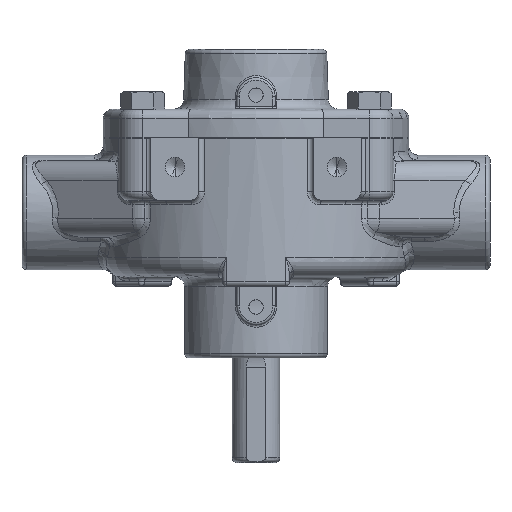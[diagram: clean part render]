
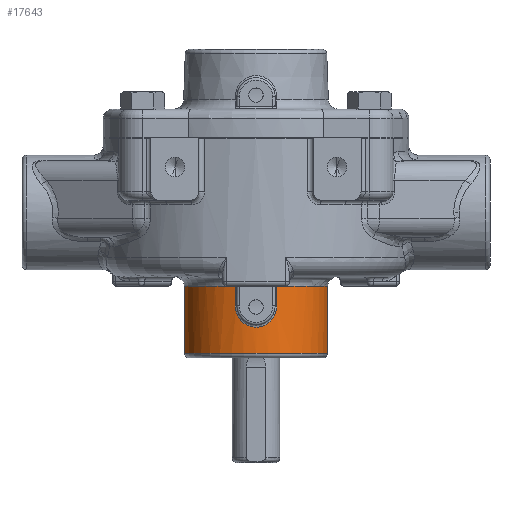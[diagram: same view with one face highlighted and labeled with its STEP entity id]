
A CAD part, front view. The second image highlights one B-rep face of the part: STEP entity #17643.
In plain terms, the highlighted cylindrical face has radius 23.8 mm (diameter 47.6 mm), a partial arc.
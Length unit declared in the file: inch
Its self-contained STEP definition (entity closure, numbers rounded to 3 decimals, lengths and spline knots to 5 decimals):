
#206 = CARTESIAN_POINT ( 'NONE',  ( -0.27131, -0.76186, 0.683 ) ) ;
#294 = CARTESIAN_POINT ( 'NONE',  ( -0.27131, -0.76186, 0.9375 ) ) ;
#326 = CARTESIAN_POINT ( 'NONE',  ( 0.27131, -0.76186, 0.9375 ) ) ;
#381 = CARTESIAN_POINT ( 'NONE',  ( -0.937, 0.135, 0.9375 ) ) ;
#1983 = CARTESIAN_POINT ( 'NONE',  ( 0.27131, -0.76186, 0.683 ) ) ;
#2014 = CARTESIAN_POINT ( 'NONE',  ( 0.27131, -0.76186, 0.6647 ) ) ;
#2026 = CARTESIAN_POINT ( 'NONE',  ( 0.26959, -0.76239, 0.6467 ) ) ;
#2027 = CARTESIAN_POINT ( 'NONE',  ( 0.26454, -0.76388, 0.62016 ) ) ;
#2028 = CARTESIAN_POINT ( 'NONE',  ( 0.26244, -0.7645, 0.61138 ) ) ;
#2029 = CARTESIAN_POINT ( 'NONE',  ( 0.25739, -0.76596, 0.59398 ) ) ;
#2030 = CARTESIAN_POINT ( 'NONE',  ( 0.25442, -0.7668, 0.58533 ) ) ;
#2031 = CARTESIAN_POINT ( 'NONE',  ( 0.24443, -0.76958, 0.56013 ) ) ;
#2032 = CARTESIAN_POINT ( 'NONE',  ( 0.23627, -0.77178, 0.54418 ) ) ;
#2033 = CARTESIAN_POINT ( 'NONE',  ( 0.21698, -0.77658, 0.51393 ) ) ;
#2034 = CARTESIAN_POINT ( 'NONE',  ( 0.20573, -0.77922, 0.49956 ) ) ;
#2035 = CARTESIAN_POINT ( 'NONE',  ( 0.18105, -0.78443, 0.47367 ) ) ;
#2036 = CARTESIAN_POINT ( 'NONE',  ( 0.16754, -0.78702, 0.46199 ) ) ;
#2037 = CARTESIAN_POINT ( 'NONE',  ( 0.14544, -0.79067, 0.44645 ) ) ;
#2038 = CARTESIAN_POINT ( 'NONE',  ( 0.13773, -0.79186, 0.44158 ) ) ;
#2039 = CARTESIAN_POINT ( 'NONE',  ( 0.12202, -0.79405, 0.43275 ) ) ;
#2040 = CARTESIAN_POINT ( 'NONE',  ( 0.11399, -0.79508, 0.42874 ) ) ;
#2041 = CARTESIAN_POINT ( 'NONE',  ( 0.08935, -0.79788, 0.41798 ) ) ;
#2042 = CARTESIAN_POINT ( 'NONE',  ( 0.07217, -0.79939, 0.41243 ) ) ;
#2043 = CARTESIAN_POINT ( 'NONE',  ( 0.03642, -0.80146, 0.4049 ) ) ;
#2044 = CARTESIAN_POINT ( 'NONE',  ( 0.01845, -0.80199, 0.40303 ) ) ;
#2045 = CARTESIAN_POINT ( 'NONE',  ( -0.00863, -0.802, 0.40299 ) ) ;
#2046 = CARTESIAN_POINT ( 'NONE',  ( -0.01768, -0.80188, 0.40344 ) ) ;
#2047 = CARTESIAN_POINT ( 'NONE',  ( -0.03582, -0.80136, 0.40529 ) ) ;
#2048 = CARTESIAN_POINT ( 'NONE',  ( -0.04487, -0.80097, 0.4067 ) ) ;
#2049 = CARTESIAN_POINT ( 'NONE',  ( -0.07145, -0.79944, 0.41224 ) ) ;
#2050 = CARTESIAN_POINT ( 'NONE',  ( -0.08861, -0.79795, 0.4177 ) ) ;
#2051 = CARTESIAN_POINT ( 'NONE',  ( -0.11354, -0.79513, 0.42852 ) ) ;
#2052 = CARTESIAN_POINT ( 'NONE',  ( -0.12171, -0.7941, 0.43258 ) ) ;
#2053 = CARTESIAN_POINT ( 'NONE',  ( -0.13743, -0.7919, 0.4414 ) ) ;
#2054 = CARTESIAN_POINT ( 'NONE',  ( -0.14502, -0.79074, 0.44618 ) ) ;
#2055 = CARTESIAN_POINT ( 'NONE',  ( -0.1597, -0.78832, 0.45646 ) ) ;
#2056 = CARTESIAN_POINT ( 'NONE',  ( -0.16677, -0.78706, 0.46195 ) ) ;
#2057 = CARTESIAN_POINT ( 'NONE',  ( -0.18042, -0.78449, 0.47368 ) ) ;
#2058 = CARTESIAN_POINT ( 'NONE',  ( -0.18701, -0.78317, 0.47993 ) ) ;
#2059 = CARTESIAN_POINT ( 'NONE',  ( -0.20566, -0.77924, 0.49946 ) ) ;
#2060 = CARTESIAN_POINT ( 'NONE',  ( -0.21669, -0.77665, 0.51354 ) ) ;
#2061 = CARTESIAN_POINT ( 'NONE',  ( -0.23604, -0.77184, 0.54376 ) ) ;
#2062 = CARTESIAN_POINT ( 'NONE',  ( -0.24439, -0.76959, 0.56005 ) ) ;
#2063 = CARTESIAN_POINT ( 'NONE',  ( -0.25767, -0.7659, 0.59348 ) ) ;
#2064 = CARTESIAN_POINT ( 'NONE',  ( -0.26271, -0.76442, 0.61075 ) ) ;
#2065 = CARTESIAN_POINT ( 'NONE',  ( -0.26785, -0.7629, 0.63748 ) ) ;
#2066 = CARTESIAN_POINT ( 'NONE',  ( -0.26915, -0.76251, 0.64656 ) ) ;
#2067 = CARTESIAN_POINT ( 'NONE',  ( -0.27088, -0.76199, 0.66473 ) ) ;
#2068 = CARTESIAN_POINT ( 'NONE',  ( -0.27131, -0.76186, 0.67385 ) ) ;
#2069 = CARTESIAN_POINT ( 'NONE',  ( -0.27131, -0.76186, 0.683 ) ) ;
#2107 = CARTESIAN_POINT ( 'NONE',  ( 0., 0.135, 0.06 ) ) ;
#2108 = DIRECTION ( 'NONE',  ( 0., 0., 1. ) ) ;
#2109 = DIRECTION ( 'NONE',  ( 1., 0., 0. ) ) ;
#2573 = DIRECTION ( 'NONE',  ( 0., 0., -1. ) ) ;
#2578 = CARTESIAN_POINT ( 'NONE',  ( 0.27131, -0.76186, 3.14445 ) ) ;
#4655 = FACE_OUTER_BOUND ( 'NONE', #34385, .T. ) ;
#4656 = CYLINDRICAL_SURFACE ( 'NONE', #8562, 0.937 ) ;
#7938 = LINE ( 'NONE', #13130, #7945 ) ;
#7945 = VECTOR ( 'NONE', #13135, 39.37008 ) ;
#7946 = LINE ( 'NONE', #13200, #7951 ) ;
#7951 = VECTOR ( 'NONE', #13201, 39.37008 ) ;
#7971 = CIRCLE ( 'NONE', #17365, 0.937 ) ;
#8009 = CIRCLE ( 'NONE', #17380, 0.937 ) ;
#8562 = AXIS2_PLACEMENT_3D ( 'NONE', #20862, #20820, #20819 ) ;
#9342 = B_SPLINE_CURVE_WITH_KNOTS ( 'NONE', 3,
 ( #1983, #2014, #2026, #2027, #2028, #2029, #2030, #2031, #2032, #2033, #2034, #2035, #2036, #2037, #2038, #2039, #2040, #2041, #2042, #2043, #2044, #2045, #2046, #2047, #2048, #2049, #2050, #2051, #2052, #2053, #2054, #2055, #2056, #2057, #2058, #2059, #2060, #2061, #2062, #2063, #2064, #2065, #2066, #2067, #2068, #2069 ),
 .UNSPECIFIED., .F., .F.,
 ( 4, 2, 2, 2, 2, 2, 2, 2, 2, 2, 2, 2, 2, 2, 2, 2, 2, 2, 2, 2, 2, 2, 4 ),
 ( 0., 0.00137, 0.00206, 0.00275, 0.00412, 0.0055, 0.00687, 0.00756, 0.00825, 0.00962, 0.011, 0.01168, 0.01237, 0.01375, 0.01443, 0.01512, 0.01581, 0.01649, 0.01787, 0.01924, 0.02062, 0.0213, 0.02199 ),
 .UNSPECIFIED. ) ;
#13130 = CARTESIAN_POINT ( 'NONE',  ( -0.937, 0.135, 3.14445 ) ) ;
#13135 = DIRECTION ( 'NONE',  ( 0., 0., 1. ) ) ;
#13200 = CARTESIAN_POINT ( 'NONE',  ( 0.937, 0.135, 3.14445 ) ) ;
#13201 = DIRECTION ( 'NONE',  ( 0., 0., 1. ) ) ;
#13299 = CARTESIAN_POINT ( 'NONE',  ( 0., 0.135, 0.9375 ) ) ;
#13300 = DIRECTION ( 'NONE',  ( 0., 0., -1. ) ) ;
#13301 = DIRECTION ( 'NONE',  ( 1., 0., 0. ) ) ;
#13484 = CARTESIAN_POINT ( 'NONE',  ( 0., 0.135, 0.9375 ) ) ;
#13485 = DIRECTION ( 'NONE',  ( 0., 0., -1. ) ) ;
#13486 = DIRECTION ( 'NONE',  ( 1., 0., 0. ) ) ;
#14133 = VERTEX_POINT ( 'NONE', #30988 ) ;
#14190 = VERTEX_POINT ( 'NONE', #31045 ) ;
#14192 = VERTEX_POINT ( 'NONE', #31047 ) ;
#14244 = VERTEX_POINT ( 'NONE', #31099 ) ;
#14363 = VERTEX_POINT ( 'NONE', #206 ) ;
#14433 = VERTEX_POINT ( 'NONE', #294 ) ;
#14457 = VERTEX_POINT ( 'NONE', #326 ) ;
#14504 = VERTEX_POINT ( 'NONE', #381 ) ;
#17365 = AXIS2_PLACEMENT_3D ( 'NONE', #13299, #13300, #13301 ) ;
#17380 = AXIS2_PLACEMENT_3D ( 'NONE', #13484, #13485, #13486 ) ;
#17414 = AXIS2_PLACEMENT_3D ( 'NONE', #2107, #2108, #2109 ) ;
#17643 = ADVANCED_FACE ( 'NONE', ( #4655 ), #4656, .T. ) ;
#17784 = CARTESIAN_POINT ( 'NONE',  ( -0.27131, -0.76186, 3.14445 ) ) ;
#17812 = DIRECTION ( 'NONE',  ( 0., 0., 1. ) ) ;
#20819 = DIRECTION ( 'NONE',  ( 1., 0., 0. ) ) ;
#20820 = DIRECTION ( 'NONE',  ( 0., 0., 1. ) ) ;
#20862 = CARTESIAN_POINT ( 'NONE',  ( 0., 0.135, 3.14445 ) ) ;
#26796 = ORIENTED_EDGE ( 'NONE', *, *, #32920, .T. ) ;
#26825 = ORIENTED_EDGE ( 'NONE', *, *, #32892, .F. ) ;
#26989 = ORIENTED_EDGE ( 'NONE', *, *, #32898, .T. ) ;
#27030 = ORIENTED_EDGE ( 'NONE', *, *, #33030, .T. ) ;
#27056 = ORIENTED_EDGE ( 'NONE', *, *, #33037, .T. ) ;
#27088 = ORIENTED_EDGE ( 'NONE', *, *, #33126, .T. ) ;
#27097 = ORIENTED_EDGE ( 'NONE', *, *, #33176, .T. ) ;
#27131 = ORIENTED_EDGE ( 'NONE', *, *, #32956, .T. ) ;
#30988 = CARTESIAN_POINT ( 'NONE',  ( 0.27131, -0.76186, 0.683 ) ) ;
#31045 = CARTESIAN_POINT ( 'NONE',  ( 0.937, 0.135, 0.06 ) ) ;
#31047 = CARTESIAN_POINT ( 'NONE',  ( 0.937, 0.135, 0.9375 ) ) ;
#31099 = CARTESIAN_POINT ( 'NONE',  ( -0.937, 0.135, 0.06 ) ) ;
#32892 = EDGE_CURVE ( 'NONE', #14244, #14504, #7938, .T. ) ;
#32898 = EDGE_CURVE ( 'NONE', #14190, #14192, #7946, .T. ) ;
#32920 = EDGE_CURVE ( 'NONE', #14192, #14457, #7971, .T. ) ;
#32956 = EDGE_CURVE ( 'NONE', #14433, #14504, #8009, .T. ) ;
#33030 = EDGE_CURVE ( 'NONE', #14133, #14363, #9342, .T. ) ;
#33037 = EDGE_CURVE ( 'NONE', #14244, #14190, #33519, .T. ) ;
#33126 = EDGE_CURVE ( 'NONE', #14457, #14133, #33618, .T. ) ;
#33176 = EDGE_CURVE ( 'NONE', #14363, #14433, #33673, .T. ) ;
#33519 = CIRCLE ( 'NONE', #17414, 0.937 ) ;
#33618 = LINE ( 'NONE', #2578, #33624 ) ;
#33624 = VECTOR ( 'NONE', #2573, 39.37008 ) ;
#33673 = LINE ( 'NONE', #17784, #33676 ) ;
#33676 = VECTOR ( 'NONE', #17812, 39.37008 ) ;
#34385 = EDGE_LOOP ( 'NONE', ( #26825, #27056, #26989, #26796, #27088, #27030, #27097, #27131 ) ) ;
